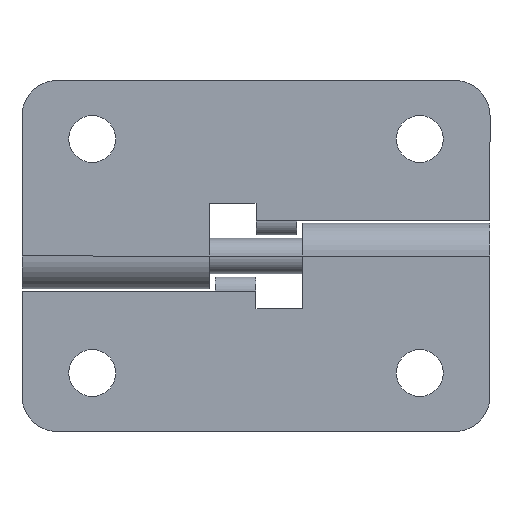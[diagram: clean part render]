
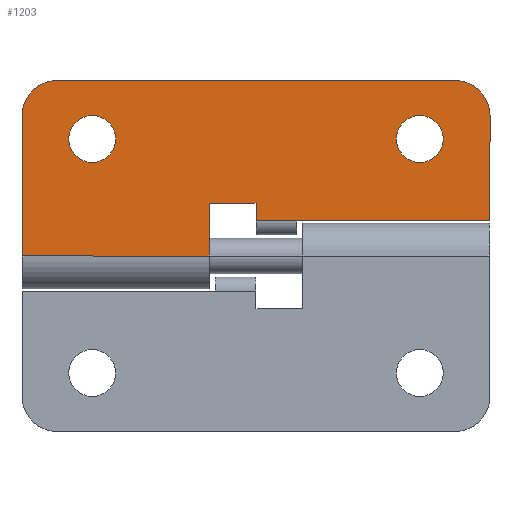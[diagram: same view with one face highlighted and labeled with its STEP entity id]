
A CAD part, left-side view. The second image highlights one B-rep face of the part: STEP entity #1203.
In plain terms, the highlighted planar face has unit normal (-1, 0, 0) as drawn and (0, 0, -1) by its records, which use the part's own axes.
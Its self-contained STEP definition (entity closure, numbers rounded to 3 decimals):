
#12 = EDGE_CURVE ( 'NONE', #209, #76, #386, .T. ) ;
#23 = ORIENTED_EDGE ( 'NONE', *, *, #1320, .T. ) ;
#39 = ORIENTED_EDGE ( 'NONE', *, *, #12, .F. ) ;
#57 = EDGE_LOOP ( 'NONE', ( #23, #569, #2083, #2002, #1926, #1070, #1941, #192, #116, #39, #1035 ) ) ;
#75 = ORIENTED_EDGE ( 'NONE', *, *, #1957, .F. ) ;
#76 = VERTEX_POINT ( 'NONE', #827 ) ;
#92 = EDGE_CURVE ( 'NONE', #76, #152, #979, .T. ) ;
#111 = EDGE_CURVE ( 'NONE', #1940, #2018, #1132, .T. ) ;
#114 = VERTEX_POINT ( 'NONE', #1157 ) ;
#116 = ORIENTED_EDGE ( 'NONE', *, *, #92, .F. ) ;
#131 = EDGE_CURVE ( 'NONE', #114, #191, #1265, .T. ) ;
#138 = ORIENTED_EDGE ( 'NONE', *, *, #111, .F. ) ;
#152 = VERTEX_POINT ( 'NONE', #1419 ) ;
#167 = EDGE_CURVE ( 'NONE', #152, #250, #1537, .T. ) ;
#176 = EDGE_LOOP ( 'NONE', ( #138, #75 ) ) ;
#190 = ORIENTED_EDGE ( 'NONE', *, *, #1934, .F. ) ;
#191 = VERTEX_POINT ( 'NONE', #485 ) ;
#192 = ORIENTED_EDGE ( 'NONE', *, *, #167, .F. ) ;
#209 = VERTEX_POINT ( 'NONE', #568 ) ;
#232 = VERTEX_POINT ( 'NONE', #671 ) ;
#241 = EDGE_CURVE ( 'NONE', #1862, #2011, #703, .T. ) ;
#250 = VERTEX_POINT ( 'NONE', #743 ) ;
#254 = VERTEX_POINT ( 'NONE', #770 ) ;
#269 = EDGE_CURVE ( 'NONE', #232, #209, #817, .T. ) ;
#278 = EDGE_CURVE ( 'NONE', #1089, #254, #875, .T. ) ;
#280 = EDGE_CURVE ( 'NONE', #191, #250, #886, .T. ) ;
#386 = LINE ( 'NONE', #387, #388 ) ;
#387 = CARTESIAN_POINT ( 'NONE',  ( -3., -7.5, -2.8 ) ) ;
#388 = VECTOR ( 'NONE', #389, 1000. ) ;
#389 = DIRECTION ( 'NONE',  ( 0., 1., 0. ) ) ;
#411 = LINE ( 'NONE', #412, #413 ) ;
#412 = CARTESIAN_POINT ( 'NONE',  ( 0., 16., -2.8 ) ) ;
#413 = VECTOR ( 'NONE', #414, 1000. ) ;
#414 = DIRECTION ( 'NONE',  ( -1., 0., 0. ) ) ;
#441 = ORIENTED_EDGE ( 'NONE', *, *, #241, .F. ) ;
#485 = CARTESIAN_POINT ( 'NONE',  ( 0., 0., -2.8 ) ) ;
#554 = CARTESIAN_POINT ( 'NONE',  ( -12., -18., -2.8 ) ) ;
#568 = CARTESIAN_POINT ( 'NONE',  ( -3., -7.5, -2.8 ) ) ;
#569 = ORIENTED_EDGE ( 'NONE', *, *, #278, .T. ) ;
#640 = CIRCLE ( 'NONE', #641, 2. ) ;
#641 = AXIS2_PLACEMENT_3D ( 'NONE', #642, #643, #644 ) ;
#642 = CARTESIAN_POINT ( 'NONE',  ( -10., -18., -2.8 ) ) ;
#643 = DIRECTION ( 'NONE',  ( 0., 0., -1. ) ) ;
#644 = DIRECTION ( 'NONE',  ( -1., 0., 0. ) ) ;
#671 = CARTESIAN_POINT ( 'NONE',  ( -3., -24., -2.8 ) ) ;
#672 = CARTESIAN_POINT ( 'NONE',  ( -12., 10., -2.8 ) ) ;
#703 = CIRCLE ( 'NONE', #704, 2. ) ;
#704 = AXIS2_PLACEMENT_3D ( 'NONE', #705, #706, #707 ) ;
#705 = CARTESIAN_POINT ( 'NONE',  ( -10., -18., -2.8 ) ) ;
#706 = DIRECTION ( 'NONE',  ( 0., 0., -1. ) ) ;
#707 = DIRECTION ( 'NONE',  ( -1., 0., 0. ) ) ;
#743 = CARTESIAN_POINT ( 'NONE',  ( -4.5, 0., -2.8 ) ) ;
#770 = CARTESIAN_POINT ( 'NONE',  ( -15., -21., -2.8 ) ) ;
#817 = LINE ( 'NONE', #818, #819 ) ;
#818 = CARTESIAN_POINT ( 'NONE',  ( -3., -24., -2.8 ) ) ;
#819 = VECTOR ( 'NONE', #820, 1000. ) ;
#820 = DIRECTION ( 'NONE',  ( 0., 1., 0. ) ) ;
#821 = CIRCLE ( 'NONE', #822, 2. ) ;
#822 = AXIS2_PLACEMENT_3D ( 'NONE', #823, #824, #825 ) ;
#823 = CARTESIAN_POINT ( 'NONE',  ( -10., 10., -2.8 ) ) ;
#824 = DIRECTION ( 'NONE',  ( 0., 0., -1. ) ) ;
#825 = DIRECTION ( 'NONE',  ( -1., 0., 0. ) ) ;
#827 = CARTESIAN_POINT ( 'NONE',  ( -3., -4., -2.8 ) ) ;
#874 = CARTESIAN_POINT ( 'NONE',  ( -12., 16., -2.8 ) ) ;
#875 = CIRCLE ( 'NONE', #876, 3. ) ;
#876 = AXIS2_PLACEMENT_3D ( 'NONE', #877, #878, #879 ) ;
#877 = CARTESIAN_POINT ( 'NONE',  ( -12., -21., -2.8 ) ) ;
#878 = DIRECTION ( 'NONE',  ( 0., 0., -1. ) ) ;
#879 = DIRECTION ( 'NONE',  ( 1., 0., 0. ) ) ;
#886 = LINE ( 'NONE', #887, #888 ) ;
#887 = CARTESIAN_POINT ( 'NONE',  ( 0., 0., -2.8 ) ) ;
#888 = VECTOR ( 'NONE', #889, 1000. ) ;
#889 = DIRECTION ( 'NONE',  ( -1., 0., 0. ) ) ;
#963 = EDGE_LOOP ( 'NONE', ( #441, #190 ) ) ;
#979 = LINE ( 'NONE', #982, #983 ) ;
#982 = CARTESIAN_POINT ( 'NONE',  ( -4.5, -4., -2.8 ) ) ;
#983 = VECTOR ( 'NONE', #984, 1000. ) ;
#984 = DIRECTION ( 'NONE',  ( -1., 0., 0. ) ) ;
#994 = CIRCLE ( 'NONE', #995, 3. ) ;
#995 = AXIS2_PLACEMENT_3D ( 'NONE', #996, #997, #1000 ) ;
#996 = CARTESIAN_POINT ( 'NONE',  ( -12., 13., -2.8 ) ) ;
#997 = DIRECTION ( 'NONE',  ( 0., 0., -1. ) ) ;
#1000 = DIRECTION ( 'NONE',  ( 1., 0., 0. ) ) ;
#1035 = ORIENTED_EDGE ( 'NONE', *, *, #269, .F. ) ;
#1070 = ORIENTED_EDGE ( 'NONE', *, *, #131, .T. ) ;
#1089 = VERTEX_POINT ( 'NONE', #1368 ) ;
#1132 = CIRCLE ( 'NONE', #1133, 2. ) ;
#1133 = AXIS2_PLACEMENT_3D ( 'NONE', #1134, #1135, #1136 ) ;
#1134 = CARTESIAN_POINT ( 'NONE',  ( -10., 10., -2.8 ) ) ;
#1135 = DIRECTION ( 'NONE',  ( 0., 0., -1. ) ) ;
#1136 = DIRECTION ( 'NONE',  ( -1., 0., 0. ) ) ;
#1157 = CARTESIAN_POINT ( 'NONE',  ( 0., 16., -2.8 ) ) ;
#1203 = ADVANCED_FACE ( 'NONE', ( #1435, #1436, #1437 ), #1438, .F. ) ;
#1223 = CARTESIAN_POINT ( 'NONE',  ( -8., -18., -2.8 ) ) ;
#1265 = LINE ( 'NONE', #1266, #1267 ) ;
#1266 = CARTESIAN_POINT ( 'NONE',  ( 0., 16., -2.8 ) ) ;
#1267 = VECTOR ( 'NONE', #1268, 1000. ) ;
#1268 = DIRECTION ( 'NONE',  ( 0., -1., 0. ) ) ;
#1287 = CARTESIAN_POINT ( 'NONE',  ( -8., 10., -2.8 ) ) ;
#1320 = EDGE_CURVE ( 'NONE', #232, #1089, #1522, .T. ) ;
#1368 = CARTESIAN_POINT ( 'NONE',  ( -12., -24., -2.8 ) ) ;
#1419 = CARTESIAN_POINT ( 'NONE',  ( -4.5, -4., -2.8 ) ) ;
#1435 = FACE_BOUND ( 'NONE', #963, .T. ) ;
#1436 = FACE_BOUND ( 'NONE', #176, .T. ) ;
#1437 = FACE_OUTER_BOUND ( 'NONE', #57, .T. ) ;
#1438 = PLANE ( 'NONE',  #1439 ) ;
#1439 = AXIS2_PLACEMENT_3D ( 'NONE', #1443, #1444, #1445 ) ;
#1443 = CARTESIAN_POINT ( 'NONE',  ( 0., 16., -2.8 ) ) ;
#1444 = DIRECTION ( 'NONE',  ( 0., 0., 1. ) ) ;
#1445 = DIRECTION ( 'NONE',  ( 1., 0., 0. ) ) ;
#1454 = CARTESIAN_POINT ( 'NONE',  ( -15., 13., -2.8 ) ) ;
#1522 = LINE ( 'NONE', #1523, #1524 ) ;
#1523 = CARTESIAN_POINT ( 'NONE',  ( -3., -24., -2.8 ) ) ;
#1524 = VECTOR ( 'NONE', #1525, 1000. ) ;
#1525 = DIRECTION ( 'NONE',  ( -1., 0., 0. ) ) ;
#1537 = LINE ( 'NONE', #1538, #1539 ) ;
#1538 = CARTESIAN_POINT ( 'NONE',  ( -4.5, -4., -2.8 ) ) ;
#1539 = VECTOR ( 'NONE', #1540, 1000. ) ;
#1540 = DIRECTION ( 'NONE',  ( 0., 1., 0. ) ) ;
#1553 = LINE ( 'NONE', #1554, #1555 ) ;
#1554 = CARTESIAN_POINT ( 'NONE',  ( -15., 16., -2.8 ) ) ;
#1555 = VECTOR ( 'NONE', #1556, 1000. ) ;
#1556 = DIRECTION ( 'NONE',  ( 0., -1., 0. ) ) ;
#1583 = EDGE_CURVE ( 'NONE', #114, #1964, #411, .T. ) ;
#1862 = VERTEX_POINT ( 'NONE', #554 ) ;
#1926 = ORIENTED_EDGE ( 'NONE', *, *, #1583, .F. ) ;
#1934 = EDGE_CURVE ( 'NONE', #2011, #1862, #640, .T. ) ;
#1940 = VERTEX_POINT ( 'NONE', #672 ) ;
#1941 = ORIENTED_EDGE ( 'NONE', *, *, #280, .T. ) ;
#1957 = EDGE_CURVE ( 'NONE', #2018, #1940, #821, .T. ) ;
#1964 = VERTEX_POINT ( 'NONE', #874 ) ;
#1979 = EDGE_CURVE ( 'NONE', #2038, #1964, #994, .T. ) ;
#2002 = ORIENTED_EDGE ( 'NONE', *, *, #1979, .T. ) ;
#2011 = VERTEX_POINT ( 'NONE', #1223 ) ;
#2018 = VERTEX_POINT ( 'NONE', #1287 ) ;
#2038 = VERTEX_POINT ( 'NONE', #1454 ) ;
#2058 = EDGE_CURVE ( 'NONE', #2038, #254, #1553, .T. ) ;
#2083 = ORIENTED_EDGE ( 'NONE', *, *, #2058, .F. ) ;
